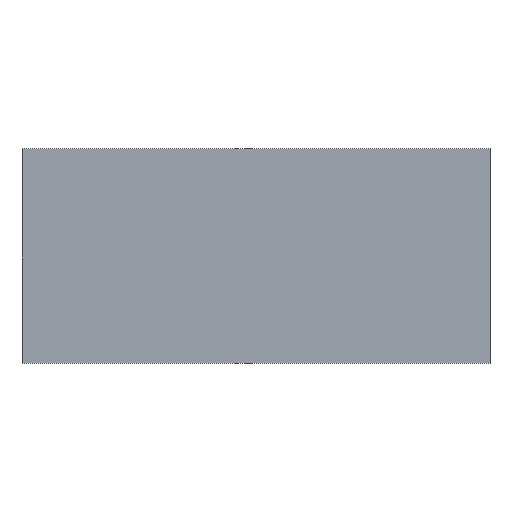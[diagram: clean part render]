
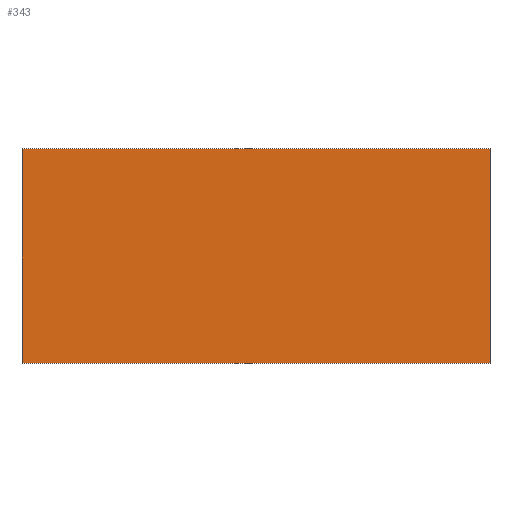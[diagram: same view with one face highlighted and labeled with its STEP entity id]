
A CAD part, top view. The second image highlights one B-rep face of the part: STEP entity #343.
In plain terms, the highlighted planar face has unit normal (0, 0, 1).
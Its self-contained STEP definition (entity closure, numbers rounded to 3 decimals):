
#343=ADVANCED_FACE('',(#629),#4493,.T.);
#629=FACE_OUTER_BOUND('',#915,.T.);
#915=EDGE_LOOP('',(#1256,#1257,#1258,#1259));
#1256=ORIENTED_EDGE('',*,*,#2670,.T.);
#1257=ORIENTED_EDGE('',*,*,#2674,.T.);
#1258=ORIENTED_EDGE('',*,*,#2677,.T.);
#1259=ORIENTED_EDGE('',*,*,#2679,.T.);
#2670=EDGE_CURVE('',#4003,#4002,#3410,.T.);
#2674=EDGE_CURVE('',#4002,#4005,#3414,.T.);
#2677=EDGE_CURVE('',#4005,#4007,#3417,.T.);
#2679=EDGE_CURVE('',#4007,#4003,#3419,.T.);
#3410=B_SPLINE_CURVE_WITH_KNOTS('',1,(#5179,#5180),.UNSPECIFIED.,.F.,.F.,
(2,2),(0.,2400.),.UNSPECIFIED.);
#3414=B_SPLINE_CURVE_WITH_KNOTS('',1,(#5187,#5188),.UNSPECIFIED.,.F.,.F.,
(2,2),(2400.,3500.),.UNSPECIFIED.);
#3417=B_SPLINE_CURVE_WITH_KNOTS('',1,(#5193,#5194),.UNSPECIFIED.,.F.,.F.,
(2,2),(3500.,5900.),.UNSPECIFIED.);
#3419=B_SPLINE_CURVE_WITH_KNOTS('',1,(#5197,#5198),.UNSPECIFIED.,.F.,.F.,
(2,2),(5900.,7000.),.UNSPECIFIED.);
#4002=VERTEX_POINT('',#5169);
#4003=VERTEX_POINT('',#5170);
#4005=VERTEX_POINT('',#5172);
#4007=VERTEX_POINT('',#5174);
#4493=PLANE('',#4773);
#4773=AXIS2_PLACEMENT_3D('',#5166,#4969,$);
#4969=DIRECTION('',(0.,0.,1.));
#5166=CARTESIAN_POINT('',(-6891.498,1103.172,844.924));
#5169=CARTESIAN_POINT('',(-4491.498,1103.172,844.924));
#5170=CARTESIAN_POINT('',(-6891.498,1103.172,844.924));
#5172=CARTESIAN_POINT('',(-4491.498,2203.172,844.924));
#5174=CARTESIAN_POINT('',(-6891.498,2203.172,844.924));
#5179=CARTESIAN_POINT('',(-6891.498,1103.172,844.924));
#5180=CARTESIAN_POINT('',(-4491.498,1103.172,844.924));
#5187=CARTESIAN_POINT('',(-4491.498,1103.172,844.924));
#5188=CARTESIAN_POINT('',(-4491.498,2203.172,844.924));
#5193=CARTESIAN_POINT('',(-4491.498,2203.172,844.924));
#5194=CARTESIAN_POINT('',(-6891.498,2203.172,844.924));
#5197=CARTESIAN_POINT('',(-6891.498,2203.172,844.924));
#5198=CARTESIAN_POINT('',(-6891.498,1103.172,844.924));
